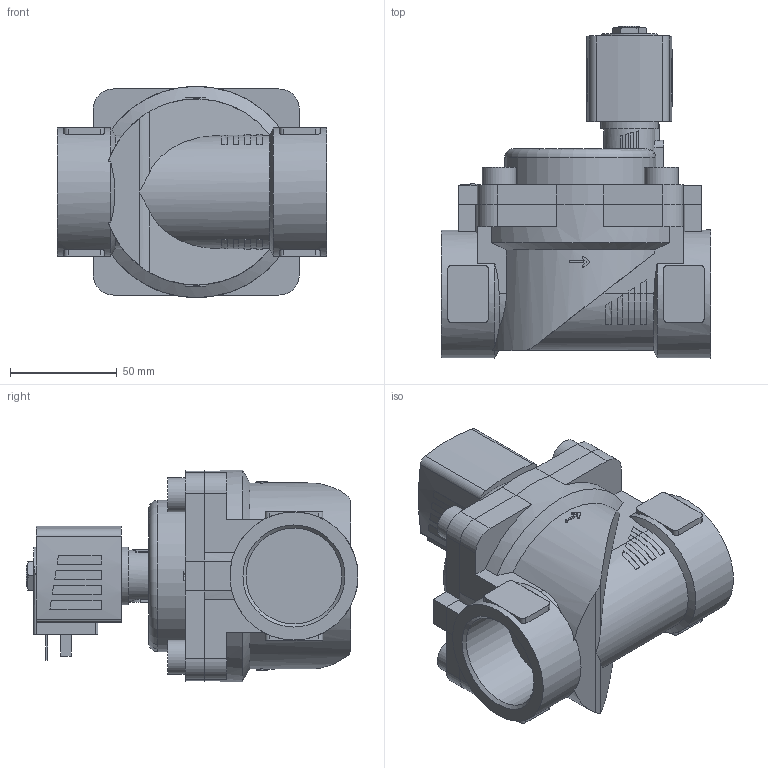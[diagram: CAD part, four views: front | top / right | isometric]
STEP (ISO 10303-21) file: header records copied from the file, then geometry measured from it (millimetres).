
FILE_DESCRIPTION(/* description */ ('STEP AP214'),/* implementation_level */ '2;1');
FILE_NAME(/* name */ '6281-338403-2_2-Way_Solenoid_Valve__Servo-assisted__General_Purpose',/* time_stamp */ '2024-09-04T15:11:35+02:00',/* author */ ('License CC BY-ND 4.0'),/* organization */ ('CADENAS'),/* preprocessor_version */ 'ST-DEVELOPER v19.3',/* originating_system */ 'PARTsolutions',/* authorisation */ ' ');
FILE_SCHEMA (('AUTOMOTIVE_DESIGN {1 0 10303 214 3 1 1}'));
Length unit declared in the file: millimetre
Products named in the file (4): 6281-338403-2/2-Way Solenoid Valve, Servo-assisted, General Purpose; 5281ev400MS2/2-Wege-Magnetventil mit Servomembran-Deckel 99 ; 6213-40G1_1/2MS-Gehaeuse-; AC10ex-6NA38-Plan-Coil
Assembly tree (3 placements, depth 2):
  6281-338403-2/2-Way Solenoid Valve, Servo-assisted, General Purpose
    5281ev400MS2/2-Wege-Magnetventil mit Servomembran-Deckel 99 
    6213-40G1_1/2MS-Gehaeuse-
    AC10ex-6NA38-Plan-Coil
Bounding box: 126 x 155.5 x 99 mm (x, y, z)
Volume: 691674.5 mm3; surface area: 95094.6 mm2
Topology: 3 solids, 3 shells, 346 faces, 901 edges, 595 vertices
Faces by surface type: plane 235, cylinder 95, cone 15, torus 1
Full cylindrical faces by diameter (mm): 2.013 x1, 9.74 x1, 16 x4, 27 x1, 44.845 x2, 60 x2
Entity records: 11880 total; most frequent: CARTESIAN_POINT 2097, DIRECTION 1758, ORIENTED_EDGE 1756, EDGE_CURVE 878, AXIS2_PLACEMENT_3D 602, VERTEX_POINT 587, LINE 554, VECTOR 554
